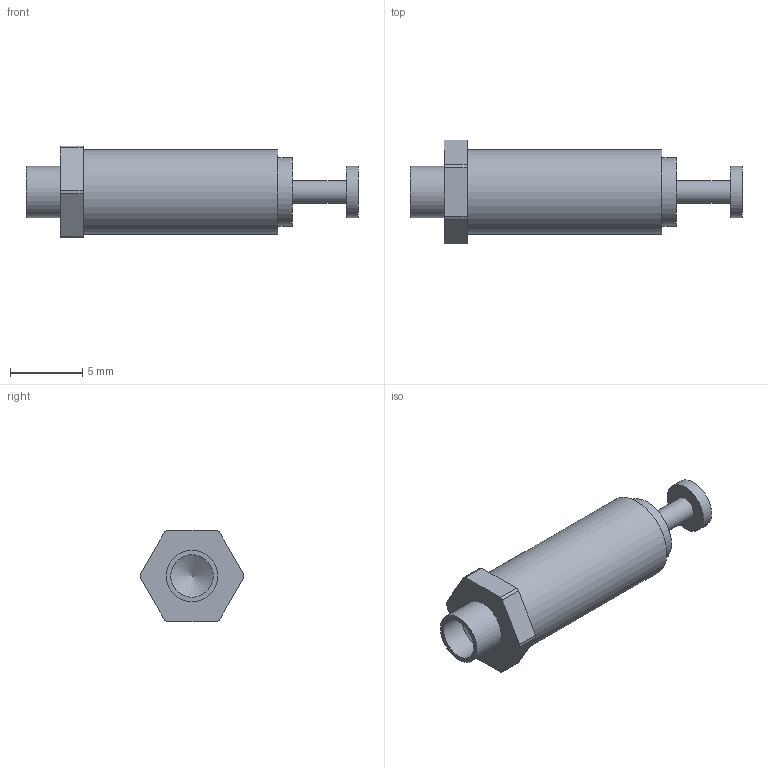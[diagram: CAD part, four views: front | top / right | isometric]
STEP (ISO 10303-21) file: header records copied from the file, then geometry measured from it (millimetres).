
FILE_DESCRIPTION(/* description */ (''),/* implementation_level */ '2;1');
FILE_NAME(/* name */ '\\Snap1\dwgs\Customer 3D Models\572\572-4843-01 Customer model.stp',/* time_stamp */ '2017-01-11T08:37:54+00:00',/* author */ ('paulk'),/* organization */ (''),/* preprocessor_version */ 'ST-DEVELOPER v15.2',/* originating_system */ 'Autodesk Inventor 2014',/* authorisation */ '');
FILE_SCHEMA (('CONFIG_CONTROL_DESIGN'));
Length unit declared in the file: millimetre
Products named in the file (1): 572-4843-01 Customer model
Bounding box: 23.04 x 7.2 x 6.35 mm (x, y, z)
Volume: 466.9 mm3; surface area: 457.4 mm2
Topology: 1 solids, 1 shells, 26 faces, 56 edges, 37 vertices
Faces by surface type: plane 13, cylinder 12, cone 1
Full cylindrical faces by diameter (mm): 1.575 x1, 2.946 x1, 3.556 x1, 3.581 x1, 4.775 x1, 5.893 x1
Entity records: 747 total; most frequent: DIRECTION 126, CARTESIAN_POINT 111, ORIENTED_EDGE 96, AXIS2_PLACEMENT_3D 51, EDGE_CURVE 48, EDGE_LOOP 38, VERTEX_POINT 36, STYLED_ITEM 27
